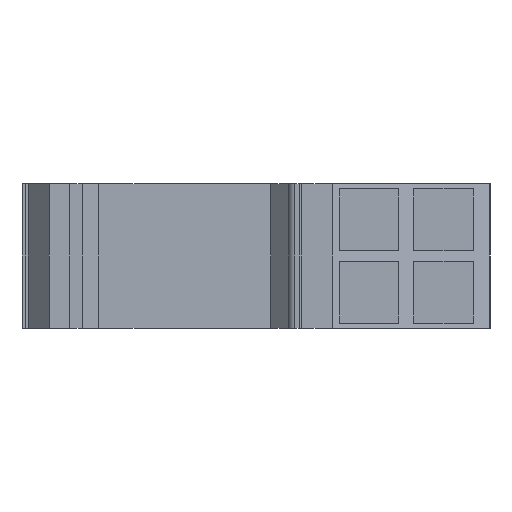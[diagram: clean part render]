
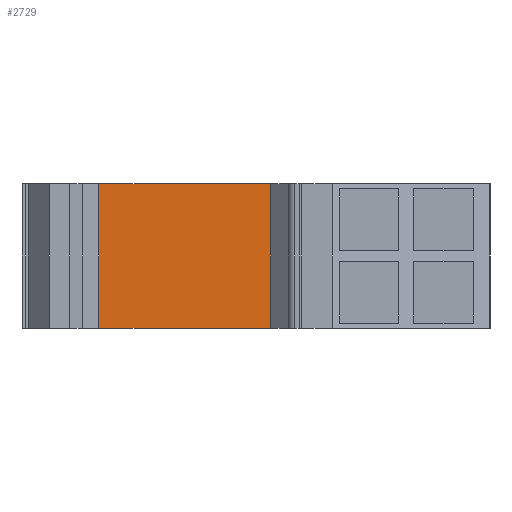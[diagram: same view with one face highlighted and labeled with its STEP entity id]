
A CAD part, front view. The second image highlights one B-rep face of the part: STEP entity #2729.
In plain terms, the highlighted planar face has unit normal (0, -1, 0).
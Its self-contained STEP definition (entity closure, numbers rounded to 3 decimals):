
#1201=CARTESIAN_POINT('',(62.139,19.344,35.0));
#1202=VERTEX_POINT('',#1201);
#1532=CARTESIAN_POINT('',(20.539,19.344,35.0));
#1533=VERTEX_POINT('',#1532);
#1540=CARTESIAN_POINT('',(62.139,19.344,35.0));
#1541=DIRECTION('',(-1.0,0.0,0.0));
#1542=VECTOR('',#1541,41.6);
#1543=LINE('',#1540,#1542);
#1544=EDGE_CURVE('',#1202,#1533,#1543,.T.);
#2680=CARTESIAN_POINT('',(62.139,19.344,0.0));
#2681=VERTEX_POINT('',#2680);
#2682=CARTESIAN_POINT('',(62.139,19.344,0.0));
#2683=DIRECTION('',(0.0,0.0,1.0));
#2684=VECTOR('',#2683,35.0);
#2685=LINE('',#2682,#2684);
#2686=EDGE_CURVE('',#2681,#1202,#2685,.T.);
#2706=CARTESIAN_POINT('',(62.139,19.344,0.0));
#2707=DIRECTION('',(0.0,-1.0,0.0));
#2708=DIRECTION('',(0.0,0.0,-1.0));
#2709=AXIS2_PLACEMENT_3D('',#2706,#2707,#2708);
#2710=PLANE('',#2709);
#2711=CARTESIAN_POINT('',(20.539,19.344,0.0));
#2712=VERTEX_POINT('',#2711);
#2713=CARTESIAN_POINT('',(20.539,19.344,0.0));
#2714=DIRECTION('',(0.0,0.0,1.0));
#2715=VECTOR('',#2714,35.0);
#2716=LINE('',#2713,#2715);
#2717=EDGE_CURVE('',#2712,#1533,#2716,.T.);
#2718=ORIENTED_EDGE('',*,*,#2717,.F.);
#2719=CARTESIAN_POINT('',(20.539,19.344,0.0));
#2720=DIRECTION('',(1.0,0.0,0.0));
#2721=VECTOR('',#2720,41.6);
#2722=LINE('',#2719,#2721);
#2723=EDGE_CURVE('',#2712,#2681,#2722,.T.);
#2724=ORIENTED_EDGE('',*,*,#2723,.T.);
#2725=ORIENTED_EDGE('',*,*,#2686,.T.);
#2726=ORIENTED_EDGE('',*,*,#1544,.T.);
#2727=EDGE_LOOP('',(#2718,#2724,#2725,#2726));
#2728=FACE_OUTER_BOUND('',#2727,.T.);
#2729=ADVANCED_FACE('',(#2728),#2710,.T.);
